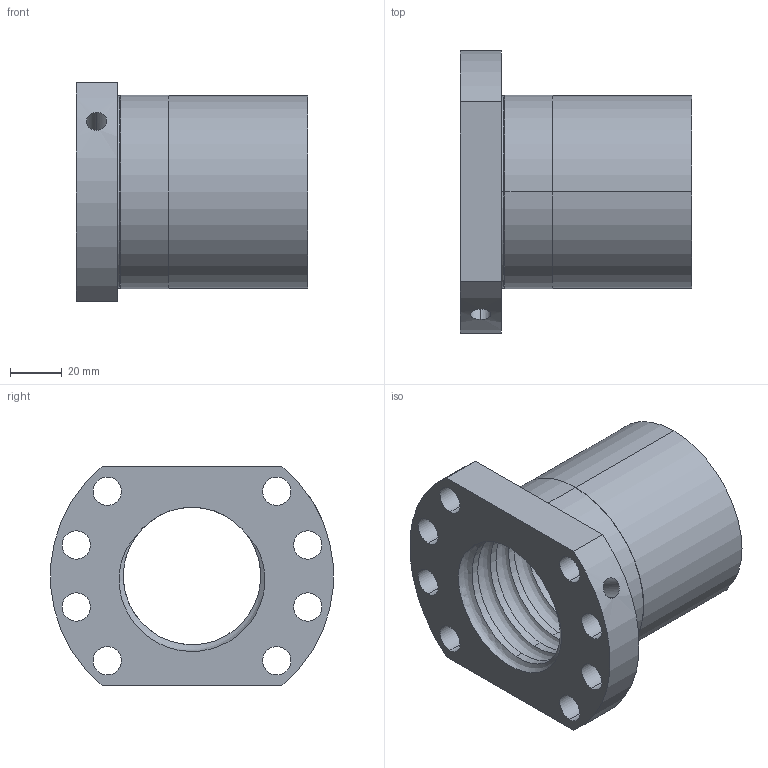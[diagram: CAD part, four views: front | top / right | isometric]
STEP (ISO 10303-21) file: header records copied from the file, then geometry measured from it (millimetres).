
FILE_DESCRIPTION (( 'STEP AP214' ), '1' );
FILE_NAME ('LLE5010-F.STEP', '2020-12-17T07:02:29', ( 'user' ), ( 'datathink' ), 'SwSTEP 2.0', 'SolidWorks 2013', '' );
FILE_SCHEMA (( 'AUTOMOTIVE_DESIGN' ));
Length unit declared in the file: millimetre
Products named in the file (1): LLE5010-F
Bounding box: 90 x 109.65 x 85 mm (x, y, z)
Volume: 222631 mm3; surface area: 57621.5 mm2
Topology: 1 solids, 1 shells, 56 faces, 155 edges, 102 vertices
Faces by surface type: cylinder 44, plane 7, torus 4, bspline 1
Entity records: 3631 total; most frequent: CARTESIAN_POINT 2207, ORIENTED_EDGE 310, DIRECTION 276, EDGE_CURVE 155, AXIS2_PLACEMENT_3D 113, VERTEX_POINT 102, EDGE_LOOP 77, CIRCLE 57
